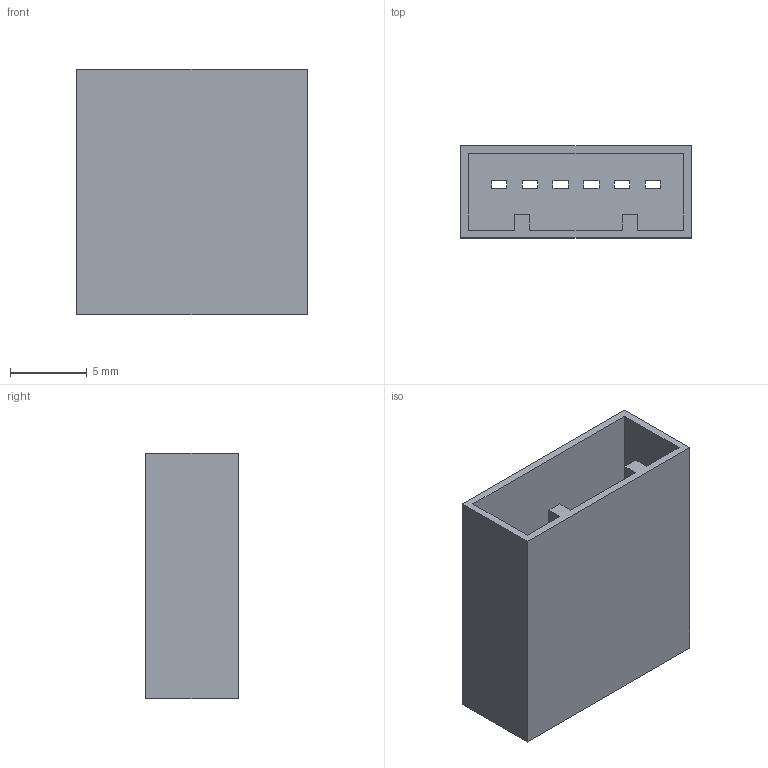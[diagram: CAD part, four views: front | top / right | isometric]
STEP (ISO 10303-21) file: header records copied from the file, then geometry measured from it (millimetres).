
FILE_DESCRIPTION(/* description */ ('STEP AP242 Edition 2','CAx-IF Rec.Pracs.---Representation and Presentation of Product Manufacturing Information (PMI)---4.0---2014-10-13','CAx-IF Rec.Pracs.---3D Tessellated Geometry---0.4---2014-09-14','2;1','CAx-IF Rec.Pracs.---User Defined Attributes---1.5---2016-08-15'),/* implementation_level */ '2;1');
FILE_NAME(/* name */ 'Assembly V2 - connecteur v1',/* time_stamp */ '2026-02-05T22:44:39Z',/* author */ (''),/* organization */ (''),/* preprocessor_version */ 'ST-DEVELOPER v20',/* originating_system */ 'ONSHAPE BY PTC INC, 1.210',/* authorisation */ ' ');
FILE_SCHEMA (('AP242_MANAGED_MODEL_BASED_3D_ENGINEERING_MIM_LF { 1 0 10303 442 3 1 4 }'));
Length unit declared in the file: metre
Products named in the file (1): connecteur v1
Bounding box: 15 x 6 x 16 mm (x, y, z)
Volume: 384.5 mm3; surface area: 1506 mm2
Topology: 1 solids, 1 shells, 43 faces, 120 edges, 80 vertices
Faces by surface type: plane 43
Entity records: 1400 total; most frequent: CARTESIAN_POINT 244, ORIENTED_EDGE 240, DIRECTION 208, EDGE_CURVE 120, LINE 120, VECTOR 120, VERTEX_POINT 80, EDGE_LOOP 56
